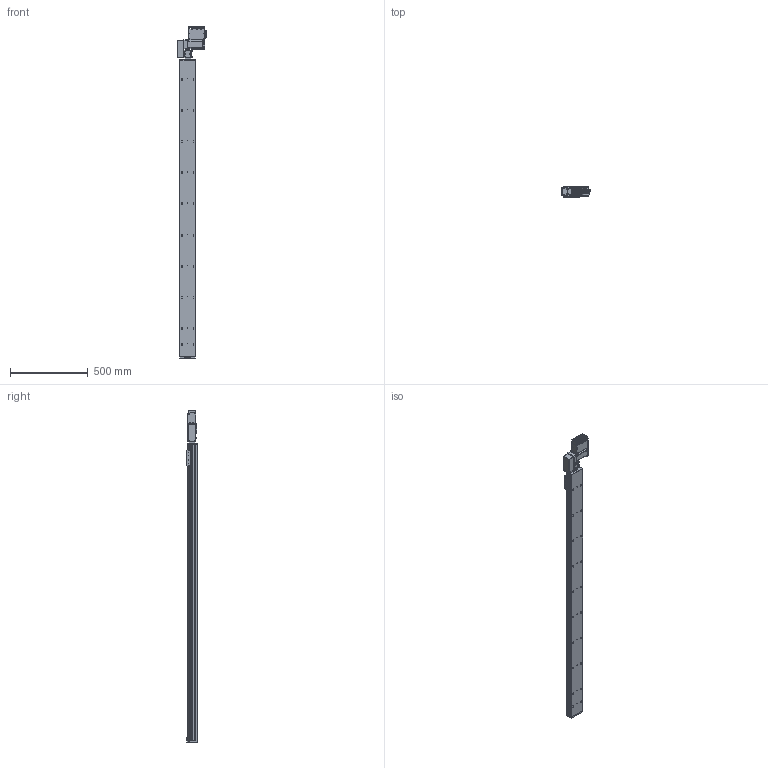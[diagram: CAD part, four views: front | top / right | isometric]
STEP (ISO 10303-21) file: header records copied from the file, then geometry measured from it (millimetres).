
FILE_DESCRIPTION (( 'STEP AP203' ), '1' );
FILE_NAME ('S10 TBN LH S1900.STEP', '2012-06-18T09:49:48', ( 'Conseil Régional Haute-Normandie' ), ( 'Conseil Régional Haute-Normandie' ), 'SwSTEP 2.0', 'SolidWorks 2010', '' );
FILE_SCHEMA (( 'CONFIG_CONTROL_DESIGN' ));
Length unit declared in the file: millimetre
Products named in the file (29): Sub D 9cts 90_X2_00B_X0__3; T_X2_00F4_X0_le lat_X2_00E9_X0_rale_5; Vis TF 3 torkx_1_1; palette tbn; axe 1900; S10 TBN LH S1900; cache t皻e axe_Default; cache t皻e_Default; Cvis M5 L30_Default; embout; plaque de bout s10_Default; Plaque racord_Default; renvoi LH_Default; vis M5 L12_Default; Vis M5 L16-2_Default_1; vis M5 L5_Default; Assem1_7; T_X2_00F4_X0_le contre le moteur_5; BU41 Carte Alimentation P05_3; Colonnette_3; BU45 Carte d''axe A11_5; Moteur 60BLDC90A_3; Couvercle_3; T_X2_00F4_X0_le fond_3; Connecteur rond D10 3cts_5; Connecteur rond D12 4cts_5; Radiateur profil_X2_00E9_X0_ 100x25_3; Colonnette ronde_3; T_X2_00F4_X0_le Arri_X2_00E8_X0_re_5
Assembly tree (62 placements, depth 3):
  S10 TBN LH S1900
    vis M5 L12_Default  x4
    Vis M5 L16-2_Default_1  x4
    Assem1_7
      Vis TF 3 torkx_1_1  x21
      Colonnette_3  x2
      Radiateur profil_X2_00E9_X0_ 100x25_3
      Colonnette ronde_3
      Connecteur rond D10 3cts_5  x2
      Connecteur rond D12 4cts_5
      Sub D 9cts 90_X2_00B_X0__3
      T_X2_00F4_X0_le fond_3
      T_X2_00F4_X0_le contre le moteur_5
      T_X2_00F4_X0_le Arri_X2_00E8_X0_re_5
      T_X2_00F4_X0_le lat_X2_00E9_X0_rale_5  x2
      BU45 Carte d''axe A11_5
      Couvercle_3
      Moteur 60BLDC90A_3
      BU41 Carte Alimentation P05_3
    axe 1900
    embout
    vis M5 L5_Default  x4
    palette tbn
    Cvis M5 L30_Default  x2
    cache t皻e axe_Default
    cache t皻e_Default  x2
    Plaque racord_Default
    renvoi LH_Default
    plaque de bout s10_Default
Bounding box: 189.8 x 66.75 x 2128.49 mm (x, y, z)
Volume: 10704524.3 mm3; surface area: 1214060.2 mm2
Topology: 61 solids, 61 shells, 2347 faces, 5814 edges, 3747 vertices
Faces by surface type: plane 1108, cylinder 1014, cone 182, bspline 40, torus 3
Entity records: 49083 total; most frequent: CARTESIAN_POINT 8838, DIRECTION 7957, ORIENTED_EDGE 7208, EDGE_CURVE 3604, AXIS2_PLACEMENT_3D 2965, VERTEX_POINT 2351, VECTOR 2027, LINE 2027
